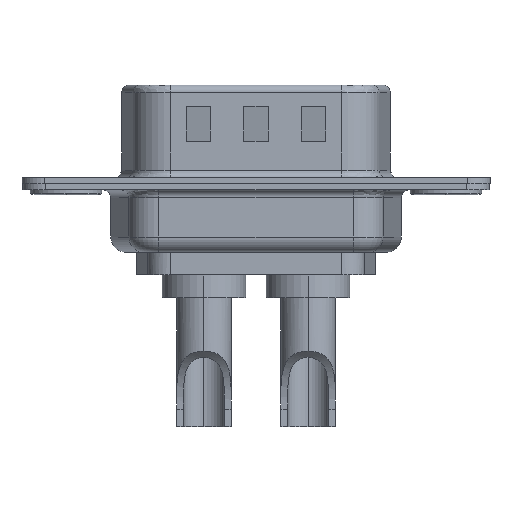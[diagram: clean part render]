
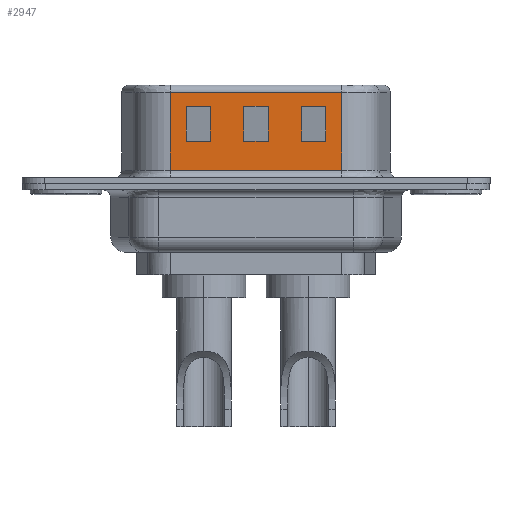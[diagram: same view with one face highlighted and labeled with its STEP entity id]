
A CAD part, front view. The second image highlights one B-rep face of the part: STEP entity #2947.
In plain terms, the highlighted planar face has unit normal (0, 1, 0).
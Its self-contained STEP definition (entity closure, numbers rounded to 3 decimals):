
#11 = EDGE_LOOP ( 'NONE', ( #7774, #6766, #7122, #1743 ) ) ;
#152 = VERTEX_POINT ( 'NONE', #4493 ) ;
#414 = VERTEX_POINT ( 'NONE', #6425 ) ;
#498 = DIRECTION ( 'NONE',  ( 1., 0., 0. ) ) ;
#508 = VERTEX_POINT ( 'NONE', #4078 ) ;
#516 = CARTESIAN_POINT ( 'NONE',  ( 5.627, -4.55, 5. ) ) ;
#554 = LINE ( 'NONE', #8281, #8160 ) ;
#747 = VERTEX_POINT ( 'NONE', #516 ) ;
#750 = EDGE_CURVE ( 'NONE', #1370, #2353, #1291, .T. ) ;
#757 = LINE ( 'NONE', #8500, #3189 ) ;
#957 = EDGE_CURVE ( 'NONE', #508, #414, #9795, .T. ) ;
#1052 = EDGE_CURVE ( 'NONE', #414, #9389, #6659, .T. ) ;
#1078 = CARTESIAN_POINT ( 'NONE',  ( 4.6, -4.55, 9.2 ) ) ;
#1164 = DIRECTION ( 'NONE',  ( 0., 0., -1. ) ) ;
#1291 = LINE ( 'NONE', #9865, #4587 ) ;
#1316 = CARTESIAN_POINT ( 'NONE',  ( 3., -4.55, 4.1 ) ) ;
#1351 = DIRECTION ( 'NONE',  ( -1., 0., 0. ) ) ;
#1370 = VERTEX_POINT ( 'NONE', #2173 ) ;
#1556 = EDGE_CURVE ( 'NONE', #152, #4999, #8548, .T. ) ;
#1604 = EDGE_CURVE ( 'NONE', #7406, #9327, #9387, .T. ) ;
#1743 = ORIENTED_EDGE ( 'NONE', *, *, #957, .F. ) ;
#1954 = EDGE_CURVE ( 'NONE', #6031, #6790, #2723, .T. ) ;
#2173 = CARTESIAN_POINT ( 'NONE',  ( -4.6, -4.55, 6.9 ) ) ;
#2353 = VERTEX_POINT ( 'NONE', #6951 ) ;
#2401 = ORIENTED_EDGE ( 'NONE', *, *, #7929, .F. ) ;
#2442 = DIRECTION ( 'NONE',  ( 1., 0., 0. ) ) ;
#2594 = DIRECTION ( 'NONE',  ( 0., 0., 1. ) ) ;
#2723 = LINE ( 'NONE', #8792, #3591 ) ;
#2947 = ADVANCED_FACE ( 'NONE', ( #6313, #9719, #10679, #5484 ), #3050, .F. ) ;
#2984 = ORIENTED_EDGE ( 'NONE', *, *, #1954, .F. ) ;
#3035 = VERTEX_POINT ( 'NONE', #8373 ) ;
#3036 = CARTESIAN_POINT ( 'NONE',  ( 4.6, -4.55, 6.9 ) ) ;
#3050 = PLANE ( 'NONE',  #9446 ) ;
#3068 = LINE ( 'NONE', #3174, #5133 ) ;
#3119 = CARTESIAN_POINT ( 'NONE',  ( -3., -4.55, 6.9 ) ) ;
#3174 = CARTESIAN_POINT ( 'NONE',  ( -5.627, -4.55, 9.2 ) ) ;
#3189 = VECTOR ( 'NONE', #2594, 1000. ) ;
#3214 = EDGE_CURVE ( 'NONE', #6790, #1370, #4746, .T. ) ;
#3331 = VERTEX_POINT ( 'NONE', #8200 ) ;
#3544 = ORIENTED_EDGE ( 'NONE', *, *, #8096, .F. ) ;
#3591 = VECTOR ( 'NONE', #1164, 1000. ) ;
#3747 = DIRECTION ( 'NONE',  ( 1., 0., 0. ) ) ;
#3904 = VERTEX_POINT ( 'NONE', #6940 ) ;
#4007 = EDGE_LOOP ( 'NONE', ( #9705, #2984, #4042, #9654 ) ) ;
#4042 = ORIENTED_EDGE ( 'NONE', *, *, #5567, .F. ) ;
#4049 = DIRECTION ( 'NONE',  ( -1., 0., 0. ) ) ;
#4078 = CARTESIAN_POINT ( 'NONE',  ( -0.8, -4.55, 6.9 ) ) ;
#4296 = EDGE_LOOP ( 'NONE', ( #3544, #8038, #6727, #9886 ) ) ;
#4443 = EDGE_CURVE ( 'NONE', #3331, #7406, #5473, .T. ) ;
#4493 = CARTESIAN_POINT ( 'NONE',  ( -5.627, -4.55, 10.11 ) ) ;
#4587 = VECTOR ( 'NONE', #9816, 1000. ) ;
#4641 = LINE ( 'NONE', #5475, #5635 ) ;
#4704 = CARTESIAN_POINT ( 'NONE',  ( -3., -4.55, 9.2 ) ) ;
#4711 = VECTOR ( 'NONE', #9017, 1000. ) ;
#4746 = LINE ( 'NONE', #8028, #5522 ) ;
#4751 = ORIENTED_EDGE ( 'NONE', *, *, #4443, .F. ) ;
#4759 = DIRECTION ( 'NONE',  ( 0., -1., 0. ) ) ;
#4999 = VERTEX_POINT ( 'NONE', #5231 ) ;
#5133 = VECTOR ( 'NONE', #498, 1000. ) ;
#5231 = CARTESIAN_POINT ( 'NONE',  ( 5.627, -4.55, 10.11 ) ) ;
#5325 = VECTOR ( 'NONE', #10379, 1000. ) ;
#5473 = LINE ( 'NONE', #10608, #8994 ) ;
#5475 = CARTESIAN_POINT ( 'NONE',  ( 0.8, -4.55, 4.1 ) ) ;
#5484 = FACE_OUTER_BOUND ( 'NONE', #4296, .T. ) ;
#5500 = CARTESIAN_POINT ( 'NONE',  ( -0.8, -4.55, 4.1 ) ) ;
#5522 = VECTOR ( 'NONE', #1351, 1000. ) ;
#5567 = EDGE_CURVE ( 'NONE', #2353, #6031, #3068, .T. ) ;
#5635 = VECTOR ( 'NONE', #6366, 1000. ) ;
#5675 = EDGE_CURVE ( 'NONE', #3904, #508, #554, .T. ) ;
#5745 = EDGE_CURVE ( 'NONE', #8395, #152, #757, .T. ) ;
#5851 = DIRECTION ( 'NONE',  ( -1., 0., 0. ) ) ;
#6031 = VERTEX_POINT ( 'NONE', #4704 ) ;
#6313 = FACE_BOUND ( 'NONE', #7700, .T. ) ;
#6323 = CARTESIAN_POINT ( 'NONE',  ( 5.627, -4.55, 4.1 ) ) ;
#6366 = DIRECTION ( 'NONE',  ( 0., 0., -1. ) ) ;
#6425 = CARTESIAN_POINT ( 'NONE',  ( -0.8, -4.55, 9.2 ) ) ;
#6430 = CARTESIAN_POINT ( 'NONE',  ( -5.627, -4.55, 4.1 ) ) ;
#6659 = LINE ( 'NONE', #10004, #7557 ) ;
#6727 = ORIENTED_EDGE ( 'NONE', *, *, #5745, .T. ) ;
#6766 = ORIENTED_EDGE ( 'NONE', *, *, #10355, .F. ) ;
#6790 = VERTEX_POINT ( 'NONE', #3119 ) ;
#6940 = CARTESIAN_POINT ( 'NONE',  ( 0.8, -4.55, 6.9 ) ) ;
#6951 = CARTESIAN_POINT ( 'NONE',  ( -4.6, -4.55, 9.2 ) ) ;
#6985 = CARTESIAN_POINT ( 'NONE',  ( -5.628, -4.55, 10.11 ) ) ;
#7122 = ORIENTED_EDGE ( 'NONE', *, *, #1052, .F. ) ;
#7162 = DIRECTION ( 'NONE',  ( 0., 0., 1. ) ) ;
#7332 = LINE ( 'NONE', #8216, #8433 ) ;
#7406 = VERTEX_POINT ( 'NONE', #1078 ) ;
#7557 = VECTOR ( 'NONE', #2442, 1000. ) ;
#7700 = EDGE_LOOP ( 'NONE', ( #2401, #10655, #4751, #11025 ) ) ;
#7774 = ORIENTED_EDGE ( 'NONE', *, *, #5675, .F. ) ;
#7929 = EDGE_CURVE ( 'NONE', #9327, #3035, #9360, .T. ) ;
#8028 = CARTESIAN_POINT ( 'NONE',  ( -5.627, -4.55, 6.9 ) ) ;
#8038 = ORIENTED_EDGE ( 'NONE', *, *, #8993, .F. ) ;
#8053 = LINE ( 'NONE', #6323, #9149 ) ;
#8096 = EDGE_CURVE ( 'NONE', #747, #4999, #8053, .T. ) ;
#8160 = VECTOR ( 'NONE', #4049, 1000. ) ;
#8163 = DIRECTION ( 'NONE',  ( 0., 0., -1. ) ) ;
#8200 = CARTESIAN_POINT ( 'NONE',  ( 3., -4.55, 9.2 ) ) ;
#8216 = CARTESIAN_POINT ( 'NONE',  ( -5.683, -4.55, 5. ) ) ;
#8281 = CARTESIAN_POINT ( 'NONE',  ( -5.627, -4.55, 6.9 ) ) ;
#8353 = CARTESIAN_POINT ( 'NONE',  ( -5.627, -4.55, 6.9 ) ) ;
#8373 = CARTESIAN_POINT ( 'NONE',  ( 3., -4.55, 6.9 ) ) ;
#8395 = VERTEX_POINT ( 'NONE', #10485 ) ;
#8433 = VECTOR ( 'NONE', #9108, 1000. ) ;
#8500 = CARTESIAN_POINT ( 'NONE',  ( -5.627, -4.55, 4.1 ) ) ;
#8548 = LINE ( 'NONE', #6985, #5325 ) ;
#8792 = CARTESIAN_POINT ( 'NONE',  ( -3., -4.55, 4.1 ) ) ;
#8946 = LINE ( 'NONE', #1316, #9533 ) ;
#8993 = EDGE_CURVE ( 'NONE', #8395, #747, #7332, .T. ) ;
#8994 = VECTOR ( 'NONE', #3747, 1000. ) ;
#9017 = DIRECTION ( 'NONE',  ( 0., 0., 1. ) ) ;
#9074 = VECTOR ( 'NONE', #5851, 1000. ) ;
#9108 = DIRECTION ( 'NONE',  ( 1., 0., 0. ) ) ;
#9149 = VECTOR ( 'NONE', #7162, 1000. ) ;
#9245 = VECTOR ( 'NONE', #9494, 1000. ) ;
#9327 = VERTEX_POINT ( 'NONE', #3036 ) ;
#9360 = LINE ( 'NONE', #8353, #9074 ) ;
#9369 = CARTESIAN_POINT ( 'NONE',  ( 0.8, -4.55, 9.2 ) ) ;
#9387 = LINE ( 'NONE', #10331, #9245 ) ;
#9389 = VERTEX_POINT ( 'NONE', #9369 ) ;
#9446 = AXIS2_PLACEMENT_3D ( 'NONE', #6430, #4759, #8163 ) ;
#9494 = DIRECTION ( 'NONE',  ( 0., 0., -1. ) ) ;
#9533 = VECTOR ( 'NONE', #10510, 1000. ) ;
#9654 = ORIENTED_EDGE ( 'NONE', *, *, #750, .F. ) ;
#9705 = ORIENTED_EDGE ( 'NONE', *, *, #3214, .F. ) ;
#9719 = FACE_BOUND ( 'NONE', #11, .T. ) ;
#9795 = LINE ( 'NONE', #5500, #4711 ) ;
#9816 = DIRECTION ( 'NONE',  ( 0., 0., 1. ) ) ;
#9865 = CARTESIAN_POINT ( 'NONE',  ( -4.6, -4.55, 4.1 ) ) ;
#9886 = ORIENTED_EDGE ( 'NONE', *, *, #1556, .T. ) ;
#9964 = EDGE_CURVE ( 'NONE', #3035, #3331, #8946, .T. ) ;
#10004 = CARTESIAN_POINT ( 'NONE',  ( -5.627, -4.55, 9.2 ) ) ;
#10331 = CARTESIAN_POINT ( 'NONE',  ( 4.6, -4.55, 4.1 ) ) ;
#10355 = EDGE_CURVE ( 'NONE', #9389, #3904, #4641, .T. ) ;
#10379 = DIRECTION ( 'NONE',  ( 1., 0., 0. ) ) ;
#10485 = CARTESIAN_POINT ( 'NONE',  ( -5.627, -4.55, 5. ) ) ;
#10510 = DIRECTION ( 'NONE',  ( 0., 0., 1. ) ) ;
#10608 = CARTESIAN_POINT ( 'NONE',  ( -5.627, -4.55, 9.2 ) ) ;
#10655 = ORIENTED_EDGE ( 'NONE', *, *, #1604, .F. ) ;
#10679 = FACE_BOUND ( 'NONE', #4007, .T. ) ;
#11025 = ORIENTED_EDGE ( 'NONE', *, *, #9964, .F. ) ;
